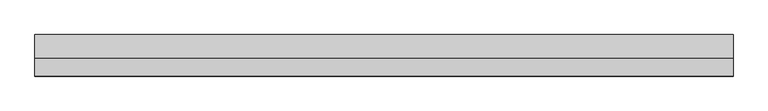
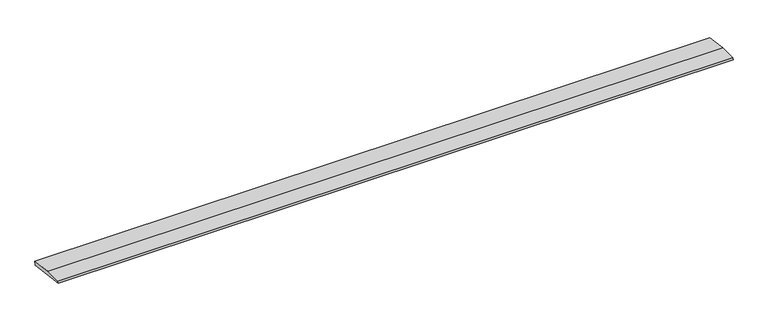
"""IFC4 building model written with IfcOpenShell, lengths in millimetres: beam geometry, weatherboad : weatherboad."""

import ifcopenshell
import ifcopenshell.guid

model = None  # the IFC model being written
_history = None  # IfcOwnerHistory: only IFC2X3 demands one
_inside = {}  # id of a spatial element -> (the spatial element, [elements in it])
_under = {}  # id of a project, library or spatial element -> (it, [spatial elements below it])
_declared = {}  # id of a project -> (the project, [libraries it declares])
_typed = {}  # id of a type object -> (the type object, [elements of that type])
_made_of = {}  # id of a material, layer set ... -> (it, [elements and type objects made of it])


def new_model(schema):
    """Start an empty IFC model of exactly this schema.

    Asked for "IFC4X3", IfcOpenShell would pick the latest addendum, in which some entities
    have other attributes; the version numbers below select the first issue.
    IFC2X3 requires an IfcOwnerHistory on every rooted entity: one is made here for all.
    """
    global model, _history
    if schema == "IFC4X3":
        model = ifcopenshell.file(schema_version=(4, 3, 0, 0))
    else:
        model = ifcopenshell.file(schema=schema)
    _inside.clear()
    _under.clear()
    _declared.clear()
    _typed.clear()
    _made_of.clear()
    _history = None
    if model.schema == "IFC2X3":
        org = make("IfcOrganization", Name="unknown")
        user = make(
            "IfcPersonAndOrganization",
            ThePerson=make("IfcPerson", FamilyName="unknown"),
            TheOrganization=org,
        )
        app = make(
            "IfcApplication",
            ApplicationDeveloper=org,
            Version="unknown",
            ApplicationFullName="unknown",
            ApplicationIdentifier="unknown",
        )
        _history = make(
            "IfcOwnerHistory",
            OwningUser=user,
            OwningApplication=app,
            ChangeAction="ADDED",
            CreationDate=0,
        )
    return model


def make(cls, **values):
    """One entity of the class cls with the attributes given. An attribute that is None is left unset."""
    return model.create_entity(
        cls, **{name: value for name, value in values.items() if value is not None}
    )


def rooted(cls, **values):
    """An entity with a GlobalId (a new one), such as an element, a storey or a relation."""
    return make(cls, GlobalId=ifcopenshell.guid.new(), OwnerHistory=_history, **values)


def si_unit(unit_type, name, prefix=None):
    """IfcSIUnit, for example si_unit("LENGTHUNIT", "METRE", prefix="MILLI")."""
    return make("IfcSIUnit", UnitType=unit_type, Prefix=prefix, Name=name)


def assignment(units):
    """IfcUnitAssignment: the units of a project."""
    return None if units is None else make("IfcUnitAssignment", Units=units)


def point(xyz):
    """IfcCartesianPoint."""
    return None if xyz is None else make("IfcCartesianPoint", Coordinates=xyz)


def direction(xyz):
    """IfcDirection."""
    return None if xyz is None else make("IfcDirection", DirectionRatios=xyz)


def frame(location, z_axis=None, x_axis=None):
    """IfcAxis2Placement3D, a coordinate frame: its origin and axes. An axis left out is left unset."""
    return make(
        "IfcAxis2Placement3D",
        Location=point(location),
        Axis=direction(z_axis),
        RefDirection=direction(x_axis),
    )


def origin():
    """The frame at (0, 0, 0) with its axes left unset."""
    return frame((0.0, 0.0, 0.0))


def place(relative_to, where):
    """IfcLocalPlacement: puts the frame where relative to a parent placement (None: the world)."""
    return make(
        "IfcLocalPlacement", PlacementRelTo=relative_to, RelativePlacement=where
    )


def context(
    kind, dimensions, precision=None, world=None, true_north=None, identifier=None
):
    """IfcGeometricRepresentationContext, for example the 3D "Model" context."""
    return make(
        "IfcGeometricRepresentationContext",
        ContextIdentifier=identifier,
        ContextType=kind,
        CoordinateSpaceDimension=dimensions,
        Precision=precision,
        WorldCoordinateSystem=world,
        TrueNorth=true_north,
    )


def project(units=None, contexts=None):
    """IfcProject with its units and contexts."""
    return rooted(
        "IfcProject",
        Name="project",
        RepresentationContexts=contexts,
        UnitsInContext=assignment(units),
    )


def spatial(cls, under=None, at=None, **own):
    """A site, building, storey or space (cls), placed at a placement, below another one or the project."""
    s = rooted(cls, ObjectPlacement=at, **own)
    if under is not None:
        _under.setdefault(under.id(), (under, []))[1].append(s)
    return s


def polyline(points):
    """IfcPolyline through the points."""
    return make("IfcPolyline", Points=[point(p) for p in points])


def outline(outer, holes=None, kind="AREA"):
    """IfcArbitraryClosedProfileDef: a profile drawn as a closed curve; with holes, ...WithVoids."""
    if holes is None:
        return make("IfcArbitraryClosedProfileDef", ProfileType=kind, OuterCurve=outer)
    return make(
        "IfcArbitraryProfileDefWithVoids",
        ProfileType=kind,
        OuterCurve=outer,
        InnerCurves=holes,
    )


def extrude(swept, where, along, depth):
    """IfcExtrudedAreaSolid: the profile swept, set in the frame where, extruded along a direction by depth."""
    return make(
        "IfcExtrudedAreaSolid",
        SweptArea=swept,
        Position=where,
        ExtrudedDirection=direction(along),
        Depth=depth,
    )


def shape(context_of_items, identifier, shape_type, items):
    """IfcShapeRepresentation: the items that make up one representation, for example the "Body"."""
    return make(
        "IfcShapeRepresentation",
        ContextOfItems=context_of_items,
        RepresentationIdentifier=identifier,
        RepresentationType=shape_type,
        Items=items,
    )


def source(mapping_origin, context_of_items, identifier, shape_type, items):
    """IfcRepresentationMap: a shape defined once, which mapped items show again and again."""
    return make(
        "IfcRepresentationMap",
        MappingOrigin=mapping_origin,
        MappedRepresentation=shape(context_of_items, identifier, shape_type, items),
    )


def transform(
    local_origin,
    x_axis=None,
    y_axis=None,
    z_axis=None,
    scale=None,
    scale2=None,
    scale3=None,
    uniform=True,
):
    """IfcCartesianTransformationOperator3D, or its non-uniform kind. x_axis, y_axis, z_axis: its Axis1, 2, 3."""
    if uniform:
        return make(
            "IfcCartesianTransformationOperator3D",
            Axis1=direction(x_axis),
            Axis2=direction(y_axis),
            LocalOrigin=point(local_origin),
            Scale=scale,
            Axis3=direction(z_axis),
        )
    return make(
        "IfcCartesianTransformationOperator3DnonUniform",
        Axis1=direction(x_axis),
        Axis2=direction(y_axis),
        LocalOrigin=point(local_origin),
        Scale=scale,
        Axis3=direction(z_axis),
        Scale2=scale2,
        Scale3=scale3,
    )


def mapped(mapping_source, mapping_target):
    """IfcMappedItem: shows the shape of a source again, moved by a transform."""
    return make(
        "IfcMappedItem", MappingSource=mapping_source, MappingTarget=mapping_target
    )


def made_of(thing, what):
    """Note that an element or type object is made of a material, layer set ...; save() writes the relation."""
    if what is not None:
        _made_of.setdefault(what.id(), (what, []))[1].append(thing)
    return thing


def element(
    cls,
    number,
    at=None,
    inside=None,
    cuts=None,
    type_object=None,
    material=None,
    context=None,
    identifier="Body",
    shape_type=None,
    held_by="IfcProductDefinitionShape",
    body=None,
    shapes=None,
    **own,
):
    """One element of the class cls, such as IfcWall. Its Tag is "e" and its number.

    at: its placement. inside: the storey or other place that contains it. cuts: it is an
    opening in that element (IfcRelVoidsElement). A single representation is given by context,
    identifier, shape_type and body (its items); several are given by shapes. held_by: the class
    of the entity that holds the representations. save() writes the other relations.
    """
    e = rooted(cls, Tag="e%d" % number, ObjectPlacement=at, **own)
    if body is not None:
        shapes = [shape(context, identifier, shape_type, body)]
    if shapes is not None:
        e.Representation = make(held_by, Representations=shapes)
    if inside is not None:
        _inside.setdefault(inside.id(), (inside, []))[1].append(e)
    if cuts is not None:
        rooted(
            "IfcRelVoidsElement", RelatingBuildingElement=cuts, RelatedOpeningElement=e
        )
    if type_object is not None:
        _typed.setdefault(type_object.id(), (type_object, []))[1].append(e)
    return made_of(e, material)


def aggregate(whole, parts):
    """IfcRelAggregates: a whole, such as a stair, and the parts it consists of."""
    return rooted("IfcRelAggregates", RelatingObject=whole, RelatedObjects=parts)


def save(model, path):
    """Write the relations noted so far, then the file.

    IfcRelAggregates (storeys below a building ...), IfcRelContainedInSpatialStructure (elements
    in a storey), IfcRelDefinesByType, IfcRelAssociatesMaterial and IfcRelDeclares: one each for
    every whole, place, type object, material and project.
    """
    for whole, parts in _under.values():
        aggregate(whole, parts)
    for where, things in _inside.values():
        rooted(
            "IfcRelContainedInSpatialStructure",
            RelatedElements=things,
            RelatingStructure=where,
        )
    for kind, things in _typed.values():
        rooted("IfcRelDefinesByType", RelatedObjects=things, RelatingType=kind)
    for what, things in _made_of.values():
        rooted("IfcRelAssociatesMaterial", RelatedObjects=things, RelatingMaterial=what)
    for by, libraries in _declared.values():
        rooted("IfcRelDeclares", RelatingContext=by, RelatedDefinitions=libraries)
    model.write(path)


def beam_7e5a3d0c(model_context):
    return source(origin(), model_context, "Body", "SweptSolid", [
        extrude(outline(polyline([(0.0, -9.143159), (1.1226388, 0.0), (79.0749747, 0.0), (180.9387048, -12.5072934), (178.6231873, -31.3656703), (0.0, -9.143159)])), frame((-1518.3551298, 0.0, 0.0), z_axis=(1.0, 0.0, 0.0), x_axis=(0.0, 1.0, 0.0)), (0.0, 0.0, 1.0), 3036.7102595),
    ])


if __name__ == "__main__":
    model = new_model("IFC4")
    model_context = context("Model", 3, world=origin())
    ifc_project = project(units=[si_unit("LENGTHUNIT", "METRE", prefix="MILLI")], contexts=[model_context])
    site = spatial("IfcSite", under=ifc_project)
    building = spatial("IfcBuilding", under=site)
    placement = place(None, origin())
    beam_shape = beam_7e5a3d0c(model_context)
    element("IfcBeam", 1, ObjectType="weatherboad : weatherboad", at=placement, inside=building, context=model_context, shape_type="MappedRepresentation", body=[
        mapped(beam_shape, transform((0.0, 0.0, 0.0), x_axis=(1.0, 0.0, 0.0), y_axis=(0.0, 1.0, 0.0), z_axis=(0.0, 0.0, 1.0))),
    ])
    save(model, "model.ifc")
